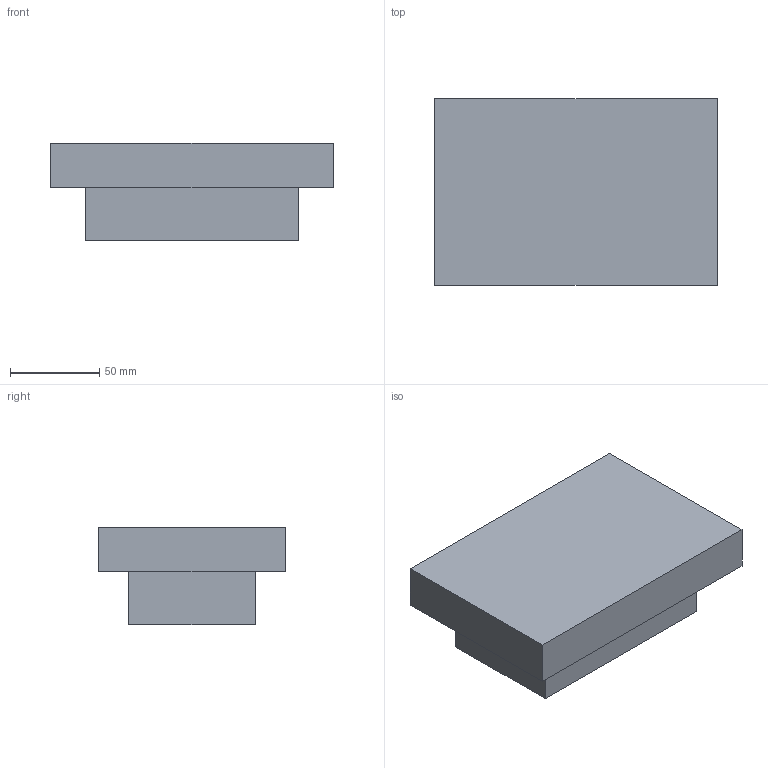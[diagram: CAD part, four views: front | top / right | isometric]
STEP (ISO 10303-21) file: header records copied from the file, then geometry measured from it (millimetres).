
FILE_DESCRIPTION((''),'2;1');
FILE_NAME('KUF100','2026-01-26T10:20:08',('28740194'),(''),'CREO PARAMETRIC BY PTC INC, 2024063','CREO PARAMETRIC BY PTC INC, 2024063','');
FILE_SCHEMA(('CONFIG_CONTROL_DESIGN'));
Length unit declared in the file: millimetre
Products named in the file (1): KUF100
Bounding box: 158.75 x 105 x 55 mm (x, y, z)
Volume: 666528.7 mm3; surface area: 58867.3 mm2
Topology: 1 solids, 1 shells, 307 faces, 864 edges, 576 vertices
Faces by surface type: plane 307
Entity records: 9736 total; most frequent: CARTESIAN_POINT 1747, ORIENTED_EDGE 1728, DIRECTION 1478, VECTOR 864, LINE 864, EDGE_CURVE 864, VERTEX_POINT 576, EDGE_LOOP 324
